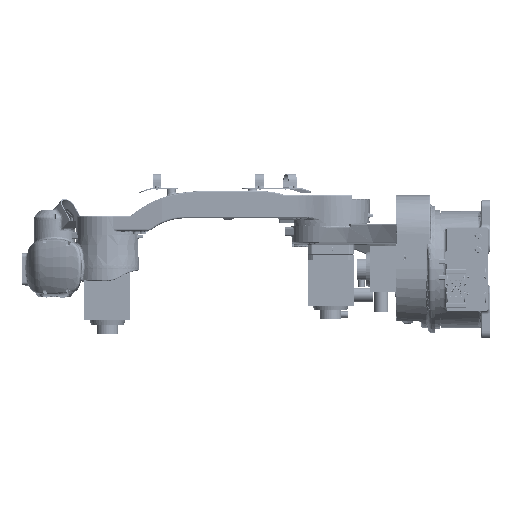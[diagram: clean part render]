
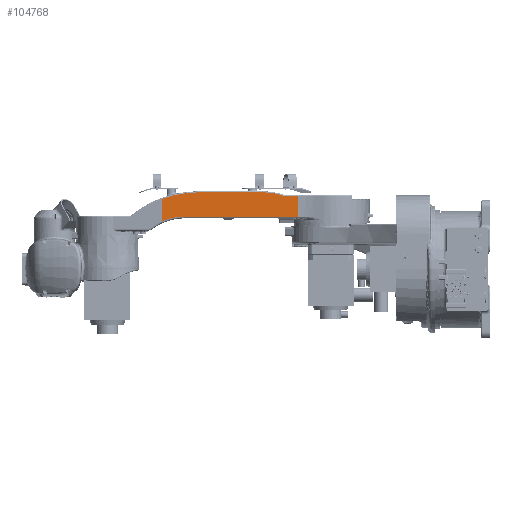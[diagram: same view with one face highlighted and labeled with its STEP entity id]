
A CAD part, left-side view. The second image highlights one B-rep face of the part: STEP entity #104768.
In plain terms, the highlighted planar face has unit normal (0, 0, -1) by its records, which use the part's own axes.
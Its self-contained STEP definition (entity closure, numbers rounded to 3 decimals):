
#500 = LINE ( 'NONE', #267080, #370809 ) ;
#2581 = CARTESIAN_POINT ( 'NONE',  ( 73., 475., 98. ) ) ;
#5000 = DIRECTION ( 'NONE',  ( 0., 0., 1. ) ) ;
#6664 = EDGE_CURVE ( 'NONE', #132119, #188088, #198322, .T. ) ;
#12432 = CARTESIAN_POINT ( 'NONE',  ( 1.831, 474.891, 98. ) ) ;
#23443 = CARTESIAN_POINT ( 'NONE',  ( 1.937, 474.913, 98. ) ) ;
#32316 = VECTOR ( 'NONE', #391324, 1000. ) ;
#48367 = DIRECTION ( 'NONE',  ( 0., 0., -1. ) ) ;
#54910 = ORIENTED_EDGE ( 'NONE', *, *, #116851, .F. ) ;
#55183 = EDGE_CURVE ( 'NONE', #155227, #397783, #229613, .T. ) ;
#62862 = DIRECTION ( 'NONE',  ( 0., 0., 1. ) ) ;
#69174 = CARTESIAN_POINT ( 'NONE',  ( 73.48, 133.024, 98. ) ) ;
#70182 = ORIENTED_EDGE ( 'NONE', *, *, #186457, .F. ) ;
#71342 = CARTESIAN_POINT ( 'NONE',  ( 15., 475., 98. ) ) ;
#77093 = ORIENTED_EDGE ( 'NONE', *, *, #249535, .F. ) ;
#90958 = CARTESIAN_POINT ( 'NONE',  ( 15., 412.37, 98. ) ) ;
#97680 = CARTESIAN_POINT ( 'NONE',  ( 15., 92.174, 98. ) ) ;
#99001 = DIRECTION ( 'NONE',  ( 0., -1., 0. ) ) ;
#104768 = ADVANCED_FACE ( 'NONE', ( #433716 ), #133661, .F. ) ;
#105690 = AXIS2_PLACEMENT_3D ( 'NONE', #384400, #129015, #99001 ) ;
#106043 = AXIS2_PLACEMENT_3D ( 'NONE', #146356, #5000, #188568 ) ;
#107780 = VERTEX_POINT ( 'NONE', #123993 ) ;
#111759 = CARTESIAN_POINT ( 'NONE',  ( 81., 130.294, 98. ) ) ;
#116851 = EDGE_CURVE ( 'NONE', #397783, #107780, #246290, .T. ) ;
#117156 = DIRECTION ( 'NONE',  ( 0., 1., 0. ) ) ;
#119943 = VERTEX_POINT ( 'NONE', #12432 ) ;
#123993 = CARTESIAN_POINT ( 'NONE',  ( 83.5, 372.386, 98. ) ) ;
#129015 = DIRECTION ( 'NONE',  ( 0., 0., 1. ) ) ;
#131797 = CARTESIAN_POINT ( 'NONE',  ( 73., 130.294, 98. ) ) ;
#132119 = VERTEX_POINT ( 'NONE', #350692 ) ;
#133661 = PLANE ( 'NONE',  #105690 ) ;
#146356 = CARTESIAN_POINT ( 'NONE',  ( -83.5, 190., 98. ) ) ;
#155227 = VERTEX_POINT ( 'NONE', #69174 ) ;
#155982 = EDGE_CURVE ( 'NONE', #188159, #370671, #391444, .T. ) ;
#163515 = CARTESIAN_POINT ( 'NONE',  ( -213.5, 372.386, 98. ) ) ;
#170784 = ORIENTED_EDGE ( 'NONE', *, *, #456099, .F. ) ;
#183134 = CARTESIAN_POINT ( 'NONE',  ( 83.5, 475., 98. ) ) ;
#186457 = EDGE_CURVE ( 'NONE', #208215, #330035, #309550, .T. ) ;
#188088 = VERTEX_POINT ( 'NONE', #131797 ) ;
#188159 = VERTEX_POINT ( 'NONE', #90958 ) ;
#188568 = DIRECTION ( 'NONE',  ( 1., 0., 0. ) ) ;
#189983 = ORIENTED_EDGE ( 'NONE', *, *, #55183, .F. ) ;
#193710 = ORIENTED_EDGE ( 'NONE', *, *, #461232, .F. ) ;
#197978 = CARTESIAN_POINT ( 'NONE',  ( 83.5, 190., 98. ) ) ;
#198322 = LINE ( 'NONE', #2581, #248847 ) ;
#200590 = ORIENTED_EDGE ( 'NONE', *, *, #155982, .F. ) ;
#207610 = VECTOR ( 'NONE', #117156, 1000. ) ;
#208215 = VERTEX_POINT ( 'NONE', #393267 ) ;
#208521 = CARTESIAN_POINT ( 'NONE',  ( 366.5, 474.913, 98. ) ) ;
#210871 = CIRCLE ( 'NONE', #426953, 297. ) ;
#212671 = CARTESIAN_POINT ( 'NONE',  ( 1.937, 474.913, 98. ) ) ;
#219118 = ORIENTED_EDGE ( 'NONE', *, *, #257778, .F. ) ;
#229613 = CIRCLE ( 'NONE', #106043, 167. ) ;
#239354 = CARTESIAN_POINT ( 'NONE',  ( 1.9, 474.913, 98. ) ) ;
#245571 = EDGE_LOOP ( 'NONE', ( #219118, #246247, #77093, #200590, #193710, #170784, #70182, #379550, #54910, #189983 ) ) ;
#246247 = ORIENTED_EDGE ( 'NONE', *, *, #6664, .F. ) ;
#246290 = LINE ( 'NONE', #183134, #207610 ) ;
#248847 = VECTOR ( 'NONE', #324236, 1000. ) ;
#249535 = EDGE_CURVE ( 'NONE', #370671, #132119, #500, .T. ) ;
#257778 = EDGE_CURVE ( 'NONE', #188088, #155227, #267103, .T. ) ;
#267080 = CARTESIAN_POINT ( 'NONE',  ( 366.5, 92.174, 98. ) ) ;
#267103 = CIRCLE ( 'NONE', #456834, 8. ) ;
#275385 = CARTESIAN_POINT ( 'NONE',  ( 1.831, 474.891, 98. ) ) ;
#305847 = AXIS2_PLACEMENT_3D ( 'NONE', #441985, #48367, #369869 ) ;
#309550 = LINE ( 'NONE', #208521, #438517 ) ;
#312336 = DIRECTION ( 'NONE',  ( 1., 0., 0. ) ) ;
#324236 = DIRECTION ( 'NONE',  ( 0., 1., 0. ) ) ;
#324841 = EDGE_CURVE ( 'NONE', #107780, #208215, #210871, .T. ) ;
#330035 = VERTEX_POINT ( 'NONE', #23443 ) ;
#348809 = B_SPLINE_CURVE_WITH_KNOTS ( 'NONE', 3,
 ( #212671, #239354, #453845, #275385 ),
 .UNSPECIFIED., .F., .F.,
 ( 4, 4 ),
 ( 0., 1. ),
 .UNSPECIFIED. ) ;
#350692 = CARTESIAN_POINT ( 'NONE',  ( 73., 92.174, 98. ) ) ;
#352679 = DIRECTION ( 'NONE',  ( -1., 0., 0. ) ) ;
#362580 = DIRECTION ( 'NONE',  ( 0., 0., -1. ) ) ;
#369869 = DIRECTION ( 'NONE',  ( 1., 0., 0. ) ) ;
#370335 = DIRECTION ( 'NONE',  ( 1., 0., 0. ) ) ;
#370671 = VERTEX_POINT ( 'NONE', #97680 ) ;
#370809 = VECTOR ( 'NONE', #370335, 1000. ) ;
#379550 = ORIENTED_EDGE ( 'NONE', *, *, #324841, .F. ) ;
#384400 = CARTESIAN_POINT ( 'NONE',  ( 366.5, 475., 98. ) ) ;
#389471 = CIRCLE ( 'NONE', #305847, 155. ) ;
#391324 = DIRECTION ( 'NONE',  ( 0., -1., 0. ) ) ;
#391444 = LINE ( 'NONE', #71342, #32316 ) ;
#393267 = CARTESIAN_POINT ( 'NONE',  ( 65.242, 474.913, 98. ) ) ;
#397783 = VERTEX_POINT ( 'NONE', #197978 ) ;
#398679 = DIRECTION ( 'NONE',  ( 1., 0., 0. ) ) ;
#426953 = AXIS2_PLACEMENT_3D ( 'NONE', #163515, #62862, #312336 ) ;
#433716 = FACE_OUTER_BOUND ( 'NONE', #245571, .T. ) ;
#438517 = VECTOR ( 'NONE', #352679, 1000. ) ;
#441985 = CARTESIAN_POINT ( 'NONE',  ( -140., 412.37, 98. ) ) ;
#453845 = CARTESIAN_POINT ( 'NONE',  ( 1.865, 474.906, 98. ) ) ;
#456099 = EDGE_CURVE ( 'NONE', #330035, #119943, #348809, .T. ) ;
#456834 = AXIS2_PLACEMENT_3D ( 'NONE', #111759, #362580, #398679 ) ;
#461232 = EDGE_CURVE ( 'NONE', #119943, #188159, #389471, .T. ) ;
